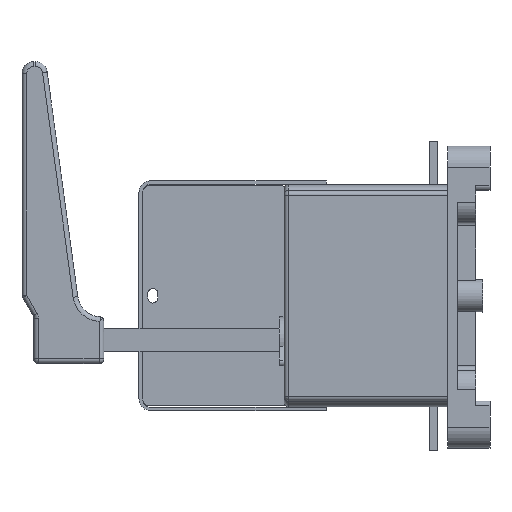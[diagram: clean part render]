
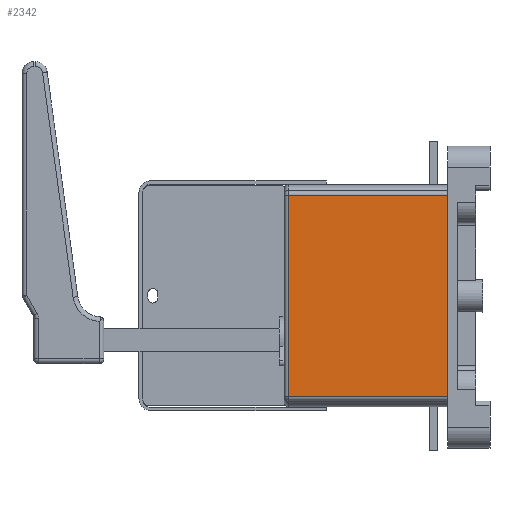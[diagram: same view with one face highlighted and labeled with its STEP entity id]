
A CAD part, left-side view. The second image highlights one B-rep face of the part: STEP entity #2342.
In plain terms, the highlighted planar face has unit normal (-1, 0, 0).
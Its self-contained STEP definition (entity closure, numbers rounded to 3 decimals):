
#845=PLANE('',#17980);
#2342=ADVANCED_FACE('',(#3431),#845,.F.);
#3431=FACE_OUTER_BOUND('',#4479,.T.);
#4479=EDGE_LOOP('',(#12382,#12383,#12384,#12385));
#4765=LINE('',#23470,#6458);
#6206=LINE('',#27464,#7899);
#6214=LINE('',#27503,#7907);
#6215=LINE('',#27505,#7908);
#6458=VECTOR('',#18779,1.);
#7899=VECTOR('',#22598,1.);
#7907=VECTOR('',#22626,1.);
#7908=VECTOR('',#22629,1.);
#12382=ORIENTED_EDGE('',*,*,#16478,.F.);
#12383=ORIENTED_EDGE('',*,*,#16463,.T.);
#12384=ORIENTED_EDGE('',*,*,#16479,.T.);
#12385=ORIENTED_EDGE('',*,*,#14509,.T.);
#12850=VERTEX_POINT('',#23469);
#12851=VERTEX_POINT('',#23471);
#14138=VERTEX_POINT('',#27447);
#14142=VERTEX_POINT('',#27463);
#14509=EDGE_CURVE('',#12851,#12850,#4765,.T.);
#16463=EDGE_CURVE('',#14138,#14142,#6206,.T.);
#16478=EDGE_CURVE('',#14138,#12850,#6214,.T.);
#16479=EDGE_CURVE('',#14142,#12851,#6215,.T.);
#17980=AXIS2_PLACEMENT_3D('',#27506,#22630,#22631);
#18779=DIRECTION('',(0.,0.,1.));
#22598=DIRECTION('',(0.,0.,-1.));
#22626=DIRECTION('',(0.,-1.,0.));
#22629=DIRECTION('',(0.,-1.,0.));
#22630=DIRECTION('',(1.,0.,0.));
#22631=DIRECTION('',(0.,0.,-1.));
#23469=CARTESIAN_POINT('',(-41.,0.,43.));
#23470=CARTESIAN_POINT('',(-41.,0.,-43.));
#23471=CARTESIAN_POINT('',(-41.,0.,-43.));
#27447=CARTESIAN_POINT('',(-41.,68.,43.));
#27463=CARTESIAN_POINT('',(-41.,68.,-43.));
#27464=CARTESIAN_POINT('',(-41.,68.,-43.));
#27503=CARTESIAN_POINT('',(-41.,35.,43.));
#27505=CARTESIAN_POINT('',(-41.,35.,-43.));
#27506=CARTESIAN_POINT('',(-41.,35.,-43.));
